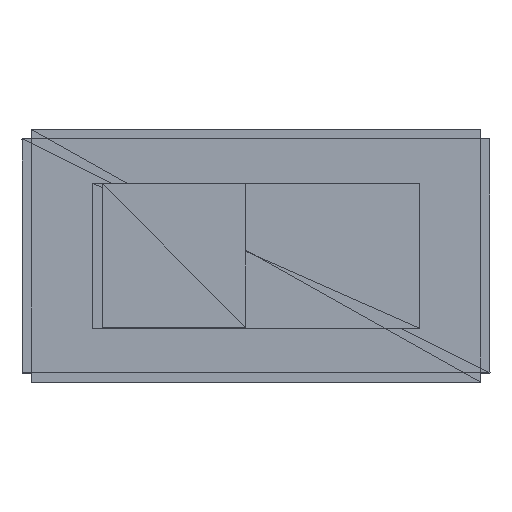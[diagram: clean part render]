
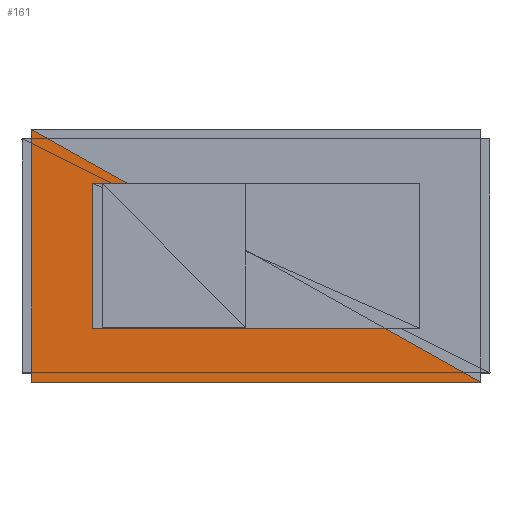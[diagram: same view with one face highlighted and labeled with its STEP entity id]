
A CAD part, top view. The second image highlights one B-rep face of the part: STEP entity #161.
In plain terms, the highlighted planar face has unit normal (0, 0, 1).
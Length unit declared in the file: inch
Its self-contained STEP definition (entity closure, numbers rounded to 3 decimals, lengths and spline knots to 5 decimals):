
#68=CARTESIAN_POINT('',(0.24038,-0.13493,1.19493));
#69=VERTEX_POINT('',#68);
#76=CARTESIAN_POINT('',(-0.2397,0.13493,1.19507));
#77=VERTEX_POINT('',#76);
#84=CARTESIAN_POINT('',(0.24038,-0.13493,1.19493));
#85=DIRECTION('',(-0.872,0.49,0.));
#86=VECTOR('',#85,0.55073);
#87=LINE('',#84,#86);
#88=EDGE_CURVE('',#69,#77,#87,.T.);
#139=CARTESIAN_POINT('',(0.24038,-0.13493,1.19493));
#140=DIRECTION('',(0.,0.,1.));
#141=DIRECTION('',(1.,-0.,0.));
#142=AXIS2_PLACEMENT_3D('',#139,#140,#141);
#143=PLANE('',#142);
#144=ORIENTED_EDGE('',*,*,#88,.T.);
#145=CARTESIAN_POINT('',(-0.23962,-0.13507,1.19507));
#146=VERTEX_POINT('',#145);
#147=CARTESIAN_POINT('',(-0.2397,0.13493,1.19507));
#148=DIRECTION('',(0.,-1.,0.));
#149=VECTOR('',#148,0.27);
#150=LINE('',#147,#149);
#151=EDGE_CURVE('',#77,#146,#150,.T.);
#152=ORIENTED_EDGE('',*,*,#151,.T.);
#153=CARTESIAN_POINT('',(0.24038,-0.13493,1.19493));
#154=DIRECTION('',(-1.,0.,0.));
#155=VECTOR('',#154,0.48);
#156=LINE('',#153,#155);
#157=EDGE_CURVE('',#69,#146,#156,.T.);
#158=ORIENTED_EDGE('',*,*,#157,.F.);
#159=EDGE_LOOP('',(#144,#152,#158));
#160=FACE_BOUND('',#159,.T.);
#161=ADVANCED_FACE('',(#160),#143,.T.);
